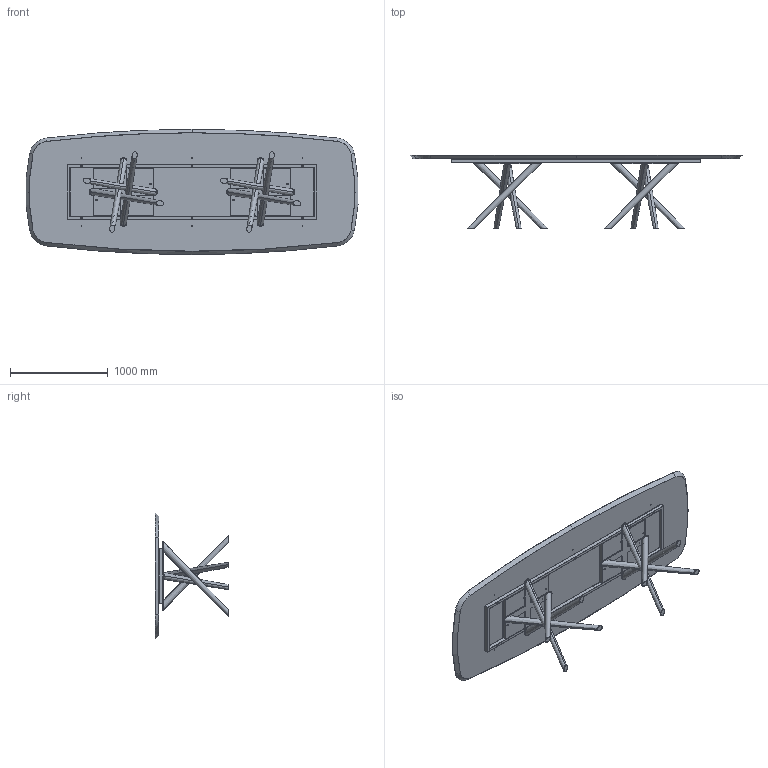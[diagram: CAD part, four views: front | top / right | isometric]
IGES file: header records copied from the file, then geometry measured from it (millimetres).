
Start section: SolidWorks IGES file using analytic representation for surfaces
Global section: file name: Y:\eforma\TECNICO\SOLIDWORKS\E-FORMA\1-TAVOLI\BALY\02 parts\BA48W.IGS; native system: SolidWorks 2022; preprocessor: SolidWorks 2022; author: eforma.tech; date: 240808.075642; units: millimetre
Bounding box: 3390.78 x 753 x 1280 mm (x, y, z)
Volume: 190747812 mm3; surface area: 23138379.3 mm2
Topology: 24 solids, 24 shells, 651 faces, 1594 edges, 973 vertices
Faces by surface type: revolution 349, plane 286, bspline 16
